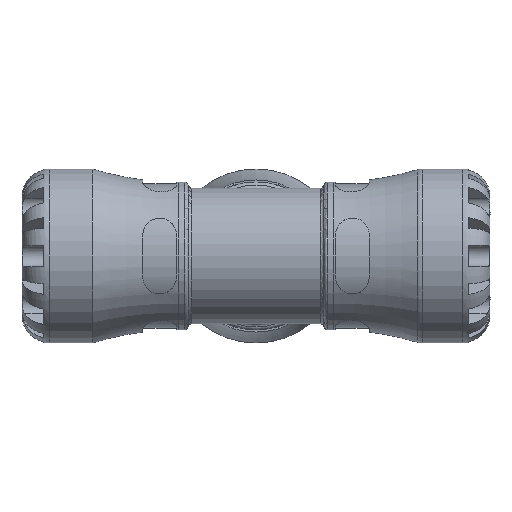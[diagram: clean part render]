
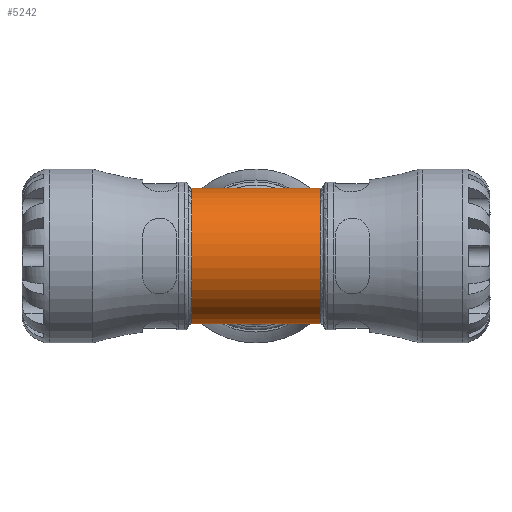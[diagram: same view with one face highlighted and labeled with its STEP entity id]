
A CAD part, front view. The second image highlights one B-rep face of the part: STEP entity #5242.
In plain terms, the highlighted cylindrical face has radius 22.62 mm (diameter 45.24 mm), a partial arc.
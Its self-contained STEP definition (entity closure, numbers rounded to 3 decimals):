
#974=CYLINDRICAL_SURFACE('',#5752,22.62);
#1420=FACE_OUTER_BOUND('',#1724,.T.);
#1724=EDGE_LOOP('',(#4392,#4393,#4394,#4395,#4396,#4397));
#1852=ELLIPSE('',#5383,32.402,22.62);
#1855=ELLIPSE('',#5388,32.402,22.62);
#1857=ELLIPSE('',#5392,32.402,22.62);
#1858=ELLIPSE('',#5394,32.402,22.62);
#1883=CIRCLE('',#5413,22.62);
#1984=CIRCLE('',#5615,22.62);
#2177=VERTEX_POINT('',#7510);
#2178=VERTEX_POINT('',#7512);
#2181=VERTEX_POINT('',#7629);
#2186=VERTEX_POINT('',#7789);
#2188=VERTEX_POINT('',#7792);
#2190=VERTEX_POINT('',#7826);
#2682=EDGE_CURVE('',#2177,#2178,#1852,.T.);
#2689=EDGE_CURVE('',#2178,#2181,#1855,.T.);
#2696=EDGE_CURVE('',#2188,#2186,#1857,.T.);
#2698=EDGE_CURVE('',#2190,#2188,#1858,.T.);
#2722=EDGE_CURVE('',#2186,#2177,#1883,.T.);
#2983=EDGE_CURVE('',#2181,#2190,#1984,.T.);
#4392=ORIENTED_EDGE('',*,*,#2682,.F.);
#4393=ORIENTED_EDGE('',*,*,#2722,.F.);
#4394=ORIENTED_EDGE('',*,*,#2696,.F.);
#4395=ORIENTED_EDGE('',*,*,#2698,.F.);
#4396=ORIENTED_EDGE('',*,*,#2983,.F.);
#4397=ORIENTED_EDGE('',*,*,#2689,.F.);
#5242=ADVANCED_FACE('',(#1420),#974,.T.);
#5383=AXIS2_PLACEMENT_3D('',#7513,#5998,#5999);
#5388=AXIS2_PLACEMENT_3D('',#7633,#6008,#6009);
#5392=AXIS2_PLACEMENT_3D('',#7794,#6016,#6017);
#5394=AXIS2_PLACEMENT_3D('',#7828,#6020,#6021);
#5413=AXIS2_PLACEMENT_3D('',#8201,#6058,#6059);
#5615=AXIS2_PLACEMENT_3D('',#9718,#6551,#6552);
#5752=AXIS2_PLACEMENT_3D('',#10724,#6891,#6892);
#5998=DIRECTION('center_axis',(-0.698,0.716,0.));
#5999=DIRECTION('ref_axis',(0.716,0.698,0.));
#6008=DIRECTION('center_axis',(0.698,0.716,0.));
#6009=DIRECTION('ref_axis',(-0.716,0.698,0.));
#6016=DIRECTION('center_axis',(-0.698,0.716,0.));
#6017=DIRECTION('ref_axis',(0.716,0.698,0.));
#6020=DIRECTION('center_axis',(0.698,0.716,0.));
#6021=DIRECTION('ref_axis',(-0.716,0.698,0.));
#6058=DIRECTION('center_axis',(1.,0.,0.));
#6059=DIRECTION('ref_axis',(0.,1.,0.));
#6551=DIRECTION('center_axis',(-1.,0.,0.));
#6552=DIRECTION('ref_axis',(0.,1.,0.));
#6891=DIRECTION('center_axis',(1.,0.,0.));
#6892=DIRECTION('ref_axis',(0.,-1.,0.));
#7510=CARTESIAN_POINT('',(21.478,20.941,-8.552));
#7512=CARTESIAN_POINT('',(0.,0.,-22.62));
#7513=CARTESIAN_POINT('Origin',(0.,0.,0.));
#7629=CARTESIAN_POINT('',(-21.478,20.941,-8.552));
#7633=CARTESIAN_POINT('Origin',(0.,0.,0.));
#7789=CARTESIAN_POINT('',(21.478,20.941,8.552));
#7792=CARTESIAN_POINT('',(0.,0.,22.62));
#7794=CARTESIAN_POINT('Origin',(0.,0.,0.));
#7826=CARTESIAN_POINT('',(-21.478,20.941,8.552));
#7828=CARTESIAN_POINT('Origin',(0.,0.,0.));
#8201=CARTESIAN_POINT('Origin',(21.478,0.,0.));
#9718=CARTESIAN_POINT('Origin',(-21.478,0.,0.));
#10724=CARTESIAN_POINT('Origin',(11.31,0.,0.));
